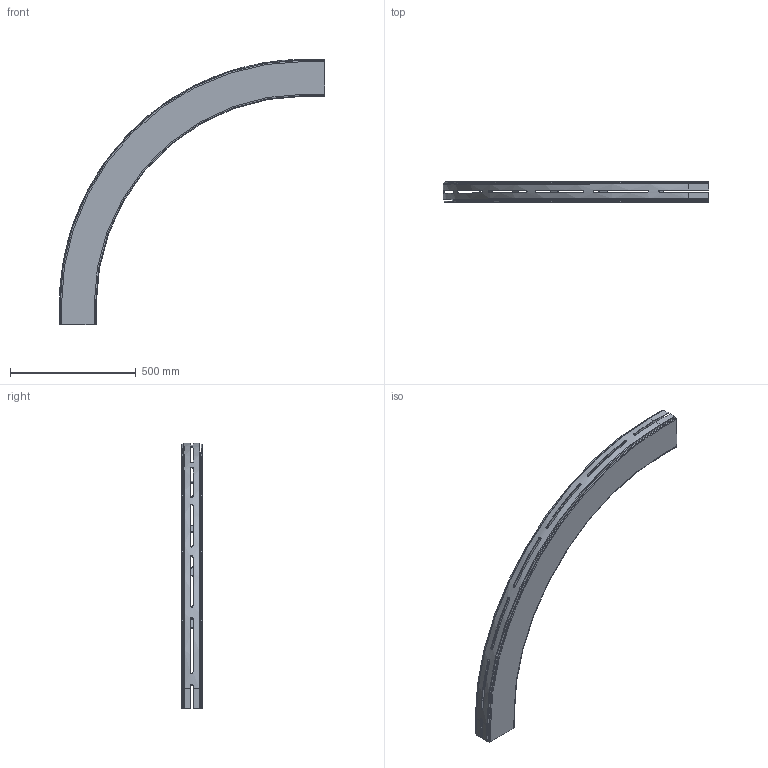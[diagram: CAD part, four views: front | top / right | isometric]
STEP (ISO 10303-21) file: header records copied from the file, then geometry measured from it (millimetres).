
FILE_DESCRIPTION(/* description */ ('GLIDKURVA SERIE 540'),/* implementation_level */ '2;1');
FILE_NAME(/* name */ '540-5375+140-2000-01.stp',/* time_stamp */ '2022-09-21T09:52:40+02:00',/* author */ ('Mathias.Dore'),/* organization */ ('CARRYLINE'),/* preprocessor_version */ 'ST-DEVELOPER v19.2',/* originating_system */ 'Autodesk Inventor 2023',/* authorisation */ '');
FILE_SCHEMA (('AUTOMOTIVE_DESIGN { 1 0 10303 214 3 1 1 }'));
Length unit declared in the file: millimetre
Products named in the file (1): 540-5375+140-2000-01
Bounding box: 1053 x 82 x 1053 mm (x, y, z)
Volume: 3552934.1 mm3; surface area: 1825363.5 mm2
Topology: 2 solids, 2 shells, 207 faces, 578 edges, 380 vertices
Faces by surface type: plane 133, bspline 38, cylinder 28, cone 4, torus 4
Entity records: 8041 total; most frequent: CARTESIAN_POINT 2728, ORIENTED_EDGE 1156, DIRECTION 962, EDGE_CURVE 578, LINE 382, VECTOR 382, VERTEX_POINT 380, AXIS2_PLACEMENT_3D 290
